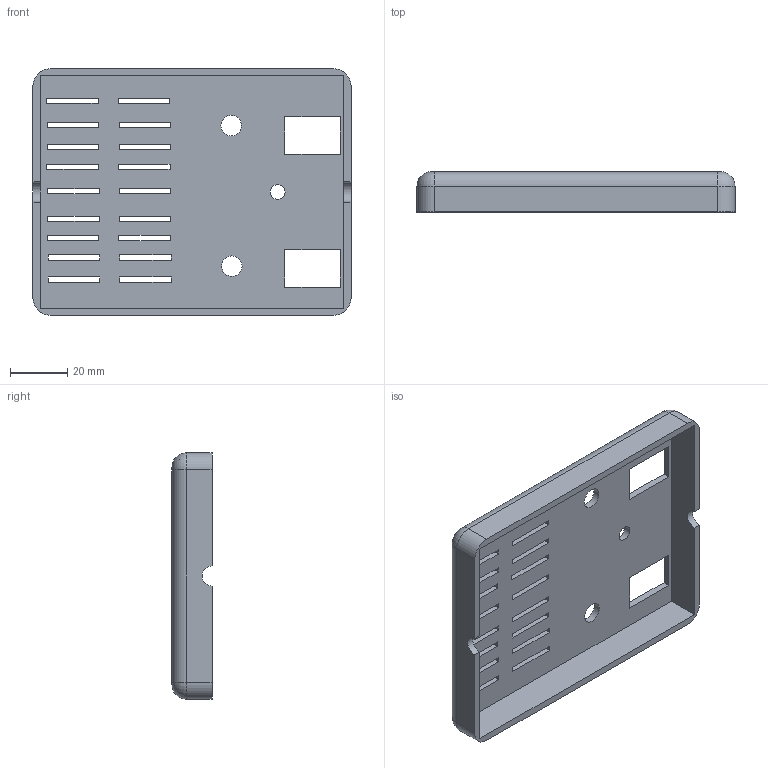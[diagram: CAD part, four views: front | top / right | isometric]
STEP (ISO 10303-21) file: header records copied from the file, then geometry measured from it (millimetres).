
FILE_DESCRIPTION(/* description */ ('STEP AP242 Edition 2','CAx-IF Rec.Pracs.---Representation and Presentation of Product Manufacturing Information (PMI)---4.0---2014-10-13','CAx-IF Rec.Pracs.---3D Tessellated Geometry---0.4---2014-09-14','2;1','CAx-IF Rec.Pracs.---User Defined Attributes---1.5---2016-08-15'),/* implementation_level */ '2;1');
FILE_NAME(/* name */ 'Assembly 1 - Top_Lid',/* time_stamp */ '2026-11-02T12:33:14Z',/* author */ (''),/* organization */ (''),/* preprocessor_version */ 'ST-DEVELOPER v20',/* originating_system */ 'ONSHAPE BY PTC INC, 1.223',/* authorisation */ ' ');
FILE_SCHEMA (('AP242_MANAGED_MODEL_BASED_3D_ENGINEERING_MIM_LF { 1 0 10303 442 3 1 4 }'));
Length unit declared in the file: millimetre
Products named in the file (1): Top_Lid
Bounding box: 111 x 14 x 86 mm (x, y, z)
Volume: 29381.5 mm3; surface area: 27685.7 mm2
Topology: 1 solids, 1 shells, 109 faces, 328 edges, 216 vertices
Faces by surface type: plane 92, cylinder 13, torus 4
Full cylindrical faces by diameter (mm): 5.2 x1, 7.2 x2
Entity records: 3737 total; most frequent: CARTESIAN_POINT 651, ORIENTED_EDGE 650, DIRECTION 585, EDGE_CURVE 325, LINE 285, VECTOR 285, VERTEX_POINT 216, EDGE_LOOP 153
